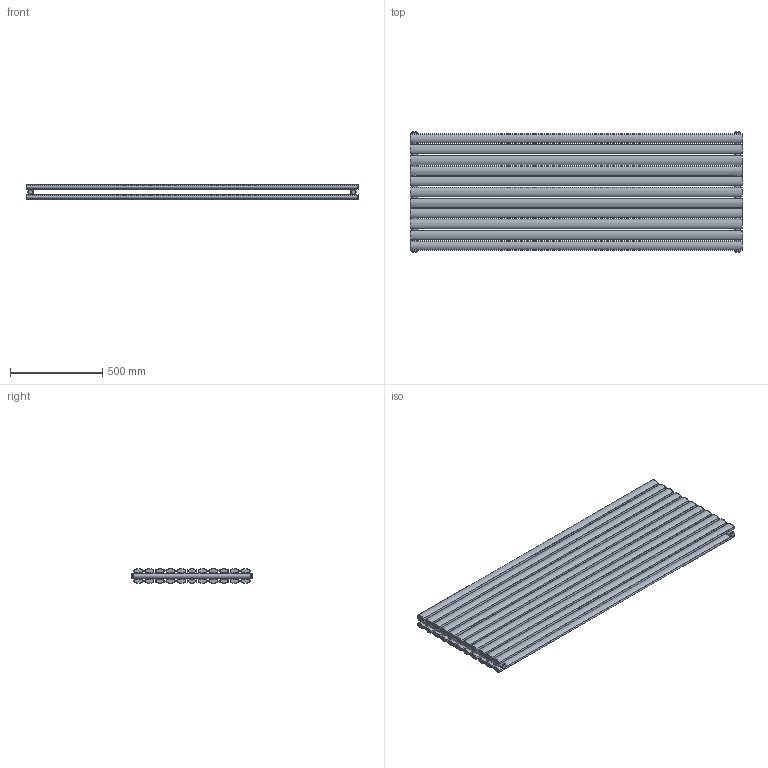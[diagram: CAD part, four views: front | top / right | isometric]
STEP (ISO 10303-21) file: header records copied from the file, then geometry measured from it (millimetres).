
FILE_DESCRIPTION(/* description */ (''),/* implementation_level */ '2;1');
FILE_NAME(/* name */ 'C:\Grzejniki\13DLUXRAD\pokojowe\FORTUNA\FORTUNA PODWÓJNA 1800x642.iam.stp',/* time_stamp */ '2016-06-28T17:31:54+02:00',/* author */ ('m.szydziak'),/* organization */ (''),/* preprocessor_version */ 'ST-DEVELOPER v16.5',/* originating_system */ 'Autodesk Inventor 2017',/* authorisation */ '');
FILE_SCHEMA (('AUTOMOTIVE_DESIGN { 1 0 10303 214 3 1 1 }'));
Length unit declared in the file: millimetre
Products named in the file (5): FORTUNA PODWÓJNA 1800x642; fi30x1,5x642; 50x25x1,2x1800; zaślepka fi30 G0,5inch; korek
Assembly tree (32 placements, depth 2):
  FORTUNA PODWÓJNA 1800x642
    fi30x1,5x642  x2
    50x25x1,2x1800  x22
    zaślepka fi30 G0,5inch  x4
    korek  x4
Bounding box: 1800 x 654 x 79.72 mm (x, y, z)
Volume: 5772285.1 mm3; surface area: 9554031.7 mm2
Topology: 32 solids, 32 shells, 414 faces, 1054 edges, 748 vertices
Faces by surface type: cylinder 258, plane 156
Full cylindrical faces by diameter (mm): 5 x22, 5.8 x44, 18.631 x4, 24 x4, 27 x6, 30 x2
Entity records: 2636 total; most frequent: CARTESIAN_POINT 1165, DIRECTION 276, ORIENTED_EDGE 216, AXIS2_PLACEMENT_3D 122, EDGE_CURVE 108, EDGE_LOOP 96, VERTEX_POINT 88, FACE_BOUND 48
